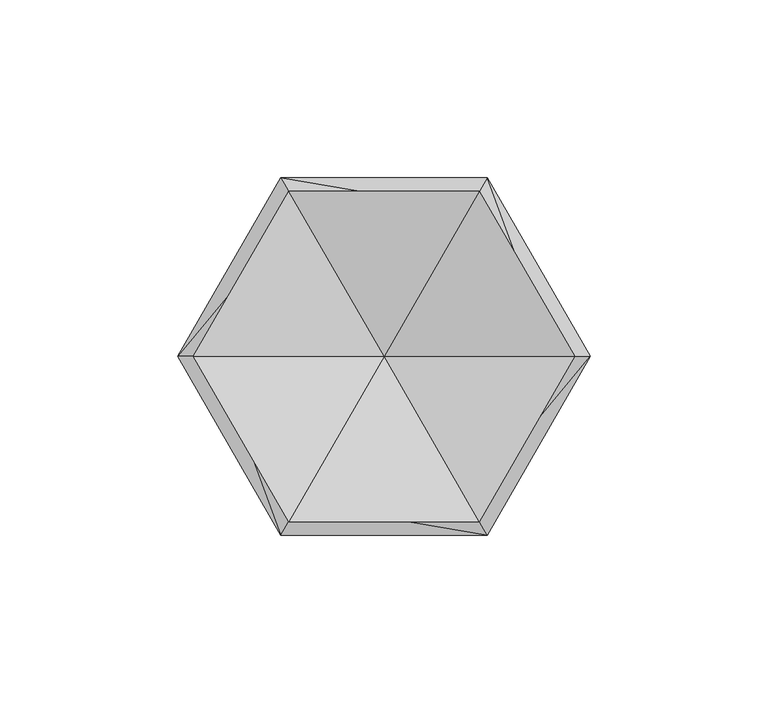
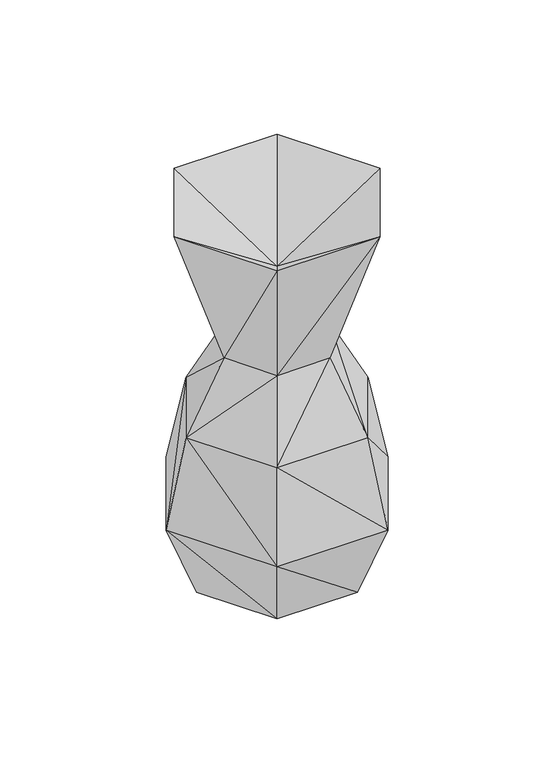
"""IFC4 building model written with IfcOpenShell, lengths in millimetres: geographic element geometry, Enscape AssetDefinition - Pineapple 1 : Enscape AssetDefinition - Pineapple 1."""

from ifc_helpers import new_model, si_unit, origin, place, context, project, spatial, faceted_brep, source, transform, mapped, element, save


def geographic_element_6166db94(model_context):
    return source(origin(), model_context, "Body", "Brep", [
        faceted_brep([(42.6079407, -4e-07, 0.0), (21.5674546, -36.4431851, 0.0), (-20.5134936, -36.4431851, 0.0), (-28.4886286, -50.256528, 39.8383811), (29.5425933, -50.256528, 39.8383811), (-57.5042553, -5.3e-06, 39.8383811), (-41.5539742, -4.1e-06, 0.0), (-20.513501, 36.4431776, 0.0), (58.5582182, -2e-07, 39.8383811), (21.5674583, 36.4431776, 0.0), (-23.2870262, -41.247081, 87.2700065), (24.3409853, -41.247081, 87.2700065), (29.5425989, 50.256528, 39.8383811), (48.155006, -3e-07, 87.2700065), (-28.4886379, 50.2565242, 39.8383811), (24.3409909, 41.247081, 87.2700065), (-23.2870337, 41.2470773, 87.2700065), (14.3353902, 23.9168685, 124.2382601), (28.1438027, -2e-07, 124.2382601), (14.3353865, -23.9168685, 124.2382601), (54.2424843, -1.2e-06, 200.4151344), (27.3847356, 46.5190038, 200.4151344), (-26.3307672, 46.5190001, 200.4151344), (-13.2814283, 23.9168666, 124.2382601), (-53.1885214, -5.9e-06, 200.4151344), (-27.0898342, -2.7e-06, 124.2382601), (0.5269828, -1e-06, 165.332064), (27.3847319, -46.5189852, 200.4151344), (-26.3307653, -46.5189852, 200.4151344), (-47.1010394, -4.5e-06, 87.2700065), (-13.2814255, -23.9168685, 124.2382601)], [[[0, 1, 2]], [[3, 2, 1]], [[4, 1, 0]], [[3, 1, 4]], [[5, 6, 2]], [[7, 2, 6]], [[0, 2, 7]], [[5, 2, 3]], [[8, 0, 9]], [[0, 7, 9]], [[4, 0, 8]], [[3, 4, 10]], [[4, 8, 11]], [[10, 4, 11]], [[8, 12, 13]], [[8, 9, 12]], [[11, 8, 13]], [[12, 9, 7]], [[14, 7, 6]], [[12, 7, 14]], [[14, 6, 5]], [[12, 14, 15]], [[14, 5, 16]], [[15, 14, 16]], [[13, 12, 15]], [[13, 15, 17]], [[11, 13, 18]], [[13, 17, 18]], [[10, 11, 19]], [[11, 18, 19]], [[20, 18, 21]], [[21, 18, 17]], [[20, 19, 18]], [[21, 17, 22]], [[15, 23, 17]], [[22, 17, 23]], [[15, 16, 23]], [[22, 23, 24]], [[16, 25, 23]], [[24, 23, 25]], [[26, 21, 22]], [[26, 22, 24]], [[26, 20, 21]], [[27, 19, 20]], [[26, 27, 20]], [[26, 24, 28]], [[26, 28, 27]], [[24, 25, 28]], [[16, 29, 25]], [[29, 30, 25]], [[28, 25, 30]], [[28, 30, 27]], [[27, 30, 19]], [[29, 10, 30]], [[10, 19, 30]], [[5, 3, 29]], [[16, 5, 29]], [[29, 3, 10]]]),
    ])


if __name__ == "__main__":
    model = new_model("IFC4")
    model_context = context("Model", 3, world=origin())
    ifc_project = project(units=[si_unit("LENGTHUNIT", "METRE", prefix="MILLI")], contexts=[model_context])
    site = spatial("IfcSite", under=ifc_project)
    building = spatial("IfcBuilding", under=site)
    placement = place(None, origin())
    geographic_element_shape = geographic_element_6166db94(model_context)
    element("IfcGeographicElement", 1, ObjectType="Enscape AssetDefinition - Pineapple 1 : Enscape AssetDefinition - Pineapple 1", at=placement, inside=building, context=model_context, shape_type="MappedRepresentation", body=[
        mapped(geographic_element_shape, transform((0.0, 0.0, 0.0), x_axis=(1.0, 0.0, 0.0), y_axis=(0.0, 1.0, 0.0), z_axis=(0.0, 0.0, 1.0))),
    ])
    save(model, "model.ifc")
